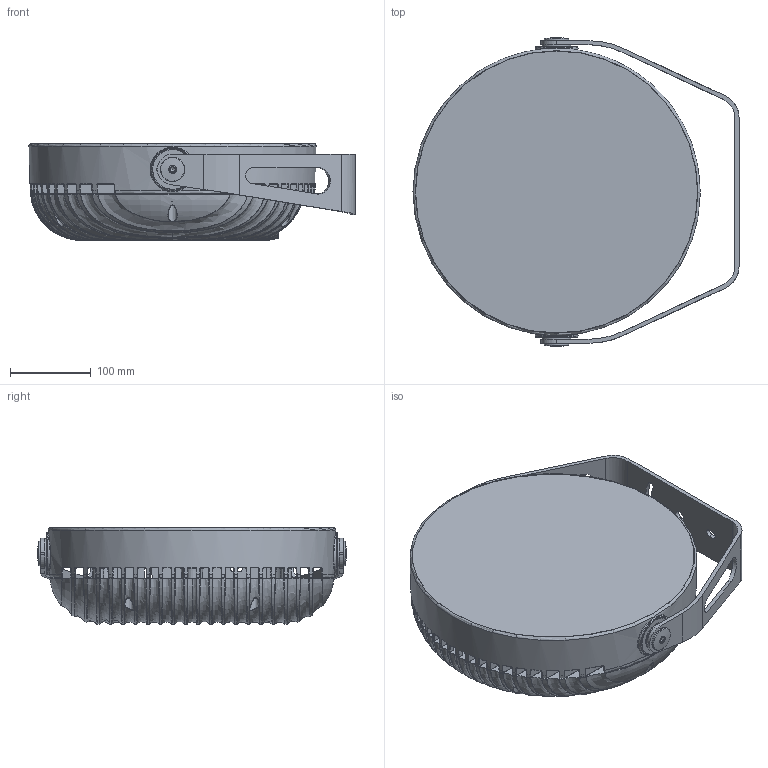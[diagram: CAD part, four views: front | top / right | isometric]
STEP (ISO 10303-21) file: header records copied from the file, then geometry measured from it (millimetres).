
FILE_DESCRIPTION(/* description */ ('Unknown'),/* implementation_level */ '2;1');
FILE_NAME(/* name */ 'Calumma - XL ',/* time_stamp */ '2022-09-30T09:07:56+02:00',/* author */ ('Unknown'),/* organization */ ('Unknown'),/* preprocessor_version */ 'ST-DEVELOPER v18.102',/* originating_system */ 'Solid Edge',/* authorisation */ 'Unknown');
FILE_SCHEMA (('AUTOMOTIVE_DESIGN {1 0 10303 214 3 1 1}'));
Products named in the file (8): Calumma XL multi; 12051722 Šroub ramene Calumma; 11018311  犈lom鬳 Calumma; Pøední díl - XL; Kryt zdroje - XL; 11418404 Rameno Calumma - XL; 11018348 podložka D=30mm; 19040204 Tøecí kroužek ramene
Assembly tree (11 placements, depth 2):
  Calumma XL multi
    12051722 Šroub ramene Calumma  x2
    11018311  犈lom鬳 Calumma  x2
    Pøední díl - XL
    Kryt zdroje - XL
    11418404 Rameno Calumma - XL
    11018348 podložka D=30mm  x2
    19040204 Tøecí kroužek ramene  x2
Bounding box: 403.92 x 382.4 x 120 mm (x, y, z)
Volume: 9844750.3 mm3; surface area: 756228.6 mm2
Topology: 11 solids, 15 shells, 1957 faces, 4640 edges, 2583 vertices
Faces by surface type: bspline 742, cylinder 365, plane 325, torus 294, sphere 150, cone 81
Full cylindrical faces by diameter (mm): 3 x12, 3.242 x8, 4.134 x12, 6.1 x2, 6.7 x6, 8 x2, 10.7 x6, 13 x3, 13.2 x6, 15.7 x1, 19.7 x1, 30 x4, 36 x2, 49.2 x2, 349.439 x1
Entity records: 92013 total; most frequent: CARTESIAN_POINT 55042, ORIENTED_EDGE 8182, DIRECTION 6596, EDGE_CURVE 4091, AXIS2_PLACEMENT_3D 2980, VERTEX_POINT 2425, FACE_BOUND 2174, EDGE_LOOP 2169
